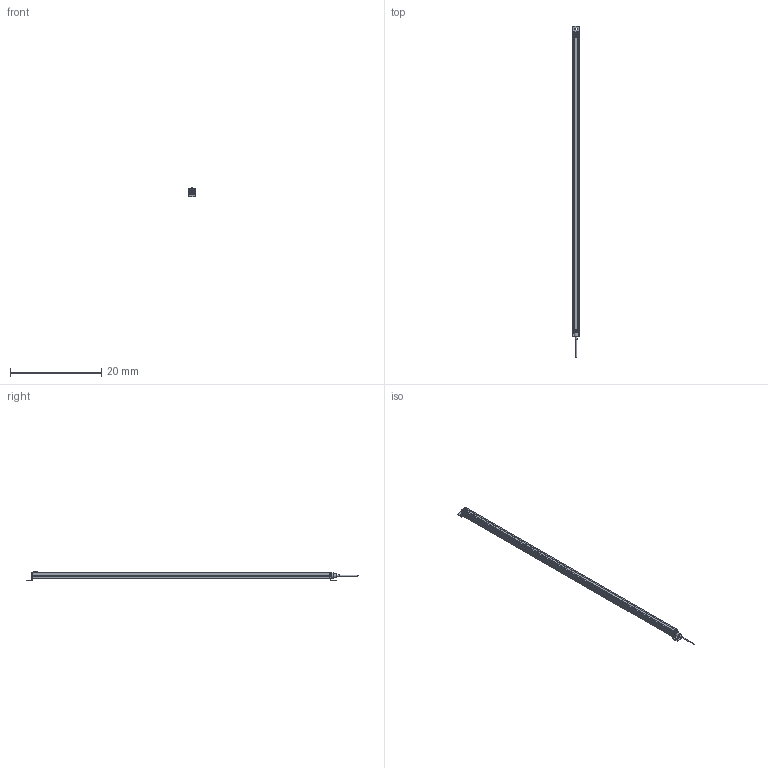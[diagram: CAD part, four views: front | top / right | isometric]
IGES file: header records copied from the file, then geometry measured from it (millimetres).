
Start section:  Autodesk DirectConnect version 7.0.27.0 ---- IGES version 5.3
Global section: file name: C:\ACADFILES\MG_PYLONS\CUSTOMER_FILES\MG-64-PYLON_3D_L.iges; native system: Autodesk DirectConnect 7.0.27.0; preprocessor: 7.0.27.0; author: ENGINEERMAIN; organization: Unknown; date: 20150810.143048; units: millimetre
Bounding box: 1.46 x 72.85 x 2.11 mm (x, y, z)
Surface area: 974.7 mm2 (no closed solid volume)
Topology: 0 solids, 0 shells, 630 faces, 3369 edges, 3383 vertices
Faces by surface type: bspline 630
